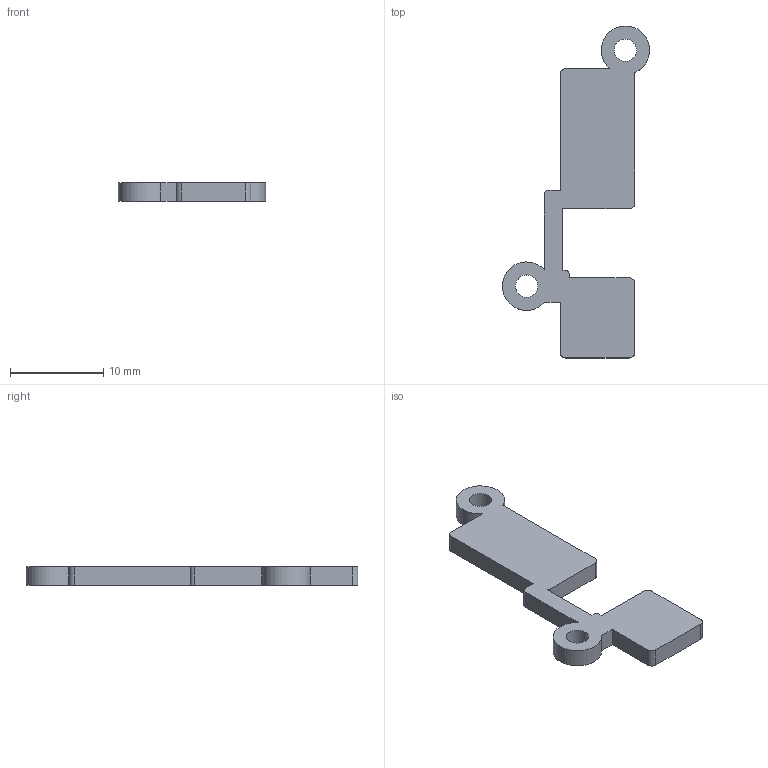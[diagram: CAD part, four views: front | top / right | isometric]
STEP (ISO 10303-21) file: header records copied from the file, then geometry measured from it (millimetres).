
FILE_DESCRIPTION(/* description */ (''),/* implementation_level */ '2;1');
FILE_NAME(/* name */ 'P19.step',/* time_stamp */ '2026-09-14T14:31:11-07:00',/* author */ (''),/* organization */ (''),/* preprocessor_version */ 'ST-DEVELOPER v20.1',/* originating_system */ 'Autodesk Translation Framework v15.8.0.0',/* authorisation */ '');
FILE_SCHEMA (('AUTOMOTIVE_DESIGN { 1 0 10303 214 3 1 1 }'));
Length unit declared in the file: millimetre
Products named in the file (1): 2026-09-14-14-31-11-045
Bounding box: 15.8 x 35.6 x 2 mm (x, y, z)
Volume: 484 mm3; surface area: 743.5 mm2
Topology: 1 solids, 1 shells, 30 faces, 84 edges, 56 vertices
Faces by surface type: plane 16, cylinder 14
Full cylindrical faces by diameter (mm): 2.4 x2
Entity records: 1017 total; most frequent: DIRECTION 174, CARTESIAN_POINT 171, ORIENTED_EDGE 168, EDGE_CURVE 84, AXIS2_PLACEMENT_3D 59, LINE 56, VECTOR 56, VERTEX_POINT 56
